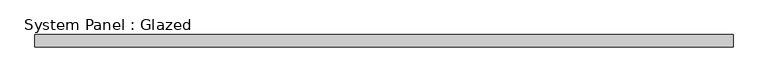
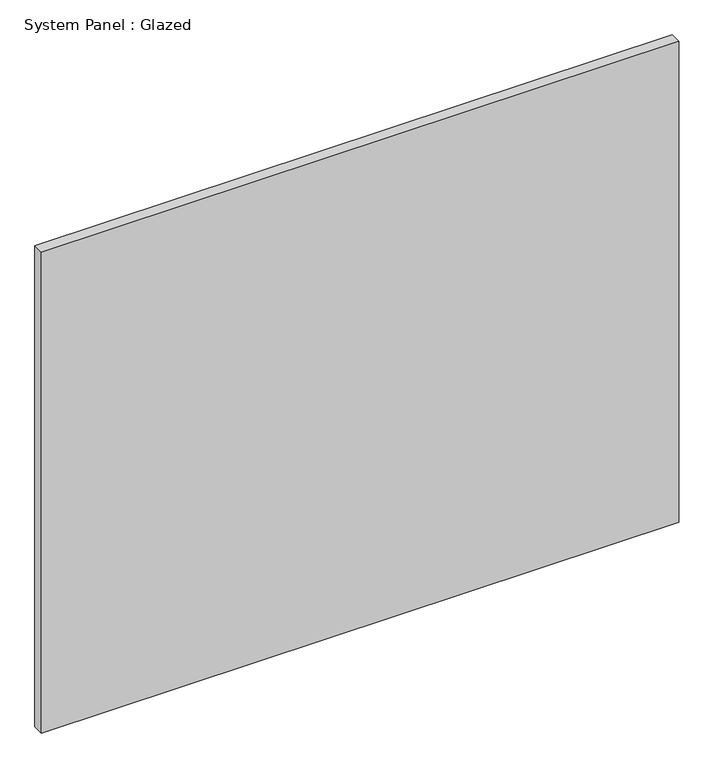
"""IFC4 building model written with IfcOpenShell, lengths in millimetres: plate geometry, System Panel : Glazed."""

from ifc_helpers import new_model, si_unit, origin, origin_with_axes, place, context, project, spatial, polyline, outline, extrude, source, transform, mapped, element, save


def system_panel_glazed_6b420f68(model_context):
    return source(origin(), model_context, "Body", "SweptSolid", [
        extrude(outline(polyline([(705.5555556, -49.5), (-705.5555556, -49.5), (-705.5555556, -24.5), (705.5555556, -24.5), (705.5555556, -49.5)])), origin_with_axes(), (0.0, 0.0, 1.0), 1125.0),
    ])


if __name__ == "__main__":
    model = new_model("IFC4")
    model_context = context("Model", 3, world=origin())
    ifc_project = project(units=[si_unit("LENGTHUNIT", "METRE", prefix="MILLI")], contexts=[model_context])
    site = spatial("IfcSite", under=ifc_project)
    building = spatial("IfcBuilding", under=site)
    placement = place(None, origin())
    system_panel_glazed_shape = system_panel_glazed_6b420f68(model_context)
    element("IfcPlate", 1, ObjectType="System Panel : Glazed", at=placement, inside=building, context=model_context, shape_type="MappedRepresentation", body=[
        mapped(system_panel_glazed_shape, transform((0.0, 0.0, 0.0), x_axis=(1.0, 0.0, 0.0), y_axis=(0.0, 1.0, 0.0), z_axis=(0.0, 0.0, 1.0))),
    ])
    save(model, "model.ifc")
